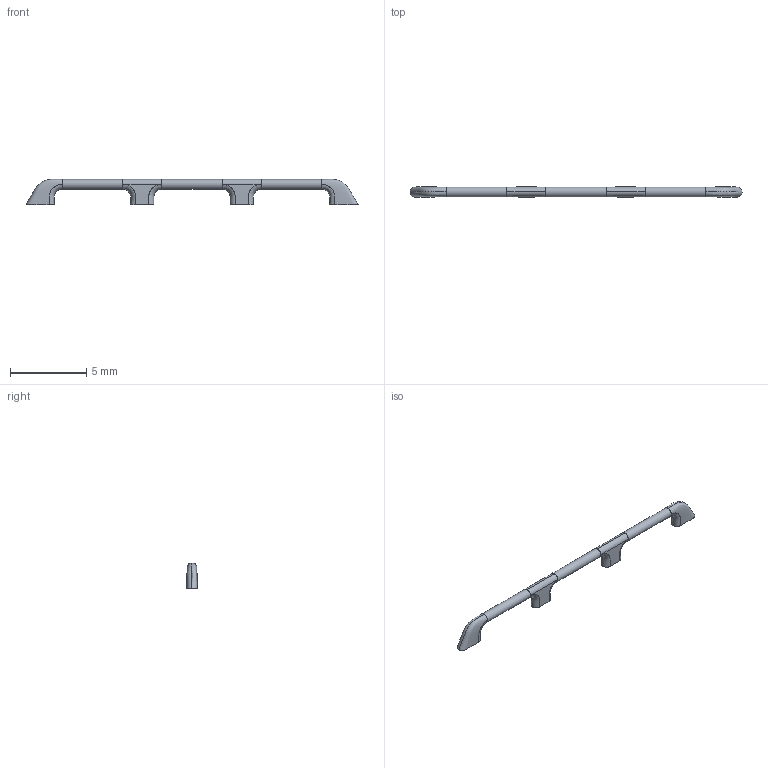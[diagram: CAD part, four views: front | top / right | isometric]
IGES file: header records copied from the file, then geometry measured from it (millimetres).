
Start section: IGES file generated from a XCAD drawing
Global section: file name: C:\Documents and Settings\Bill Harris\Desktop\UPLOADS\handles\largelwood.igs; native system: XCAD 3.1; preprocessor: XCAD IGES Translator v1.0; author: NONAME; organization: nautika watercraft; date: 1060817.150236; units: inch
Bounding box: 21.77 x 0.66 x 1.66 mm (x, y, z)
Surface area: 54.3 mm2 (no closed solid volume)
Topology: 0 solids, 0 shells, 27 faces, 105 edges, 102 vertices
Faces by surface type: bspline 27
